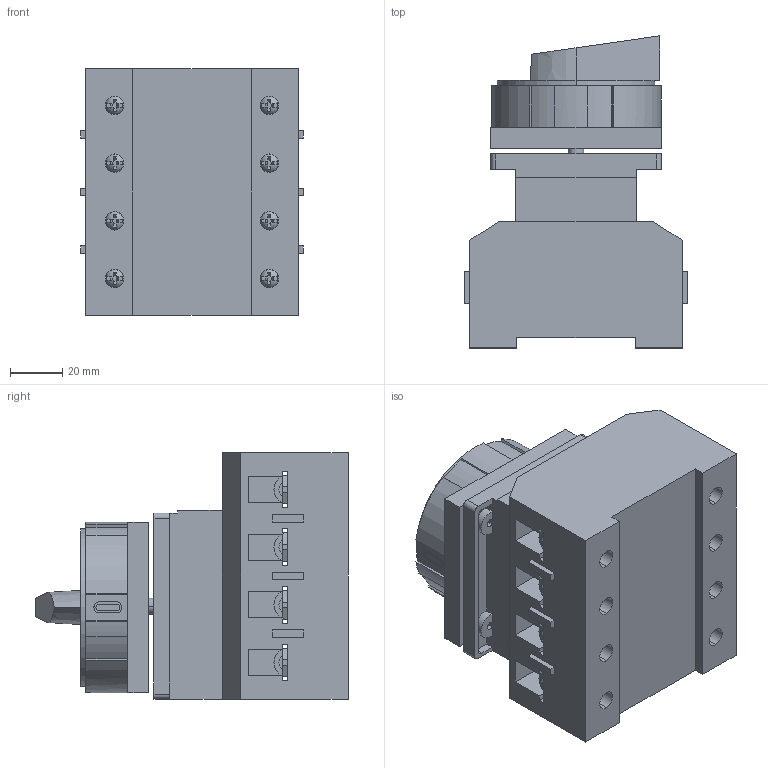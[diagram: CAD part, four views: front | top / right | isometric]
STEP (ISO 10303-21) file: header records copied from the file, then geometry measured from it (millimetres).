
FILE_DESCRIPTION((''),'2;1');
FILE_NAME('NH40-100-3-3_ASM','2021-06-16T',('wangpeng'),(''),'PRO/ENGINEER BY PARAMETRIC TECHNOLOGY CORPORATION, 2009460','PRO/ENGINEER BY PARAMETRIC TECHNOLOGY CORPORATION, 2009460','');
FILE_SCHEMA(('AUTOMOTIVE_DESIGN { 1 0 10303 214 1 1 1 1 }'));
Length unit declared in the file: millimetre
Products named in the file (5): ZJ001; CT63; DP63; LDM4; NH40-100-3-3_ASM
Assembly tree (21 placements, depth 2):
  NH40-100-3-3_ASM
    ZJ001
    CT63  x4
    DP63  x8
    LDM4  x8
Bounding box: 85 x 119 x 94 mm (x, y, z)
Volume: 465640.7 mm3; surface area: 109889.3 mm2
Topology: 21 solids, 21 shells, 620 faces, 1626 edges, 1072 vertices
Faces by surface type: plane 477, cylinder 121, sphere 16, bspline 6
Entity records: 11127 total; most frequent: CARTESIAN_POINT 2057, ORIENTED_EDGE 1804, DIRECTION 1769, EDGE_CURVE 902, VECTOR 737, LINE 737, VERTEX_POINT 594, AXIS2_PLACEMENT_3D 516
